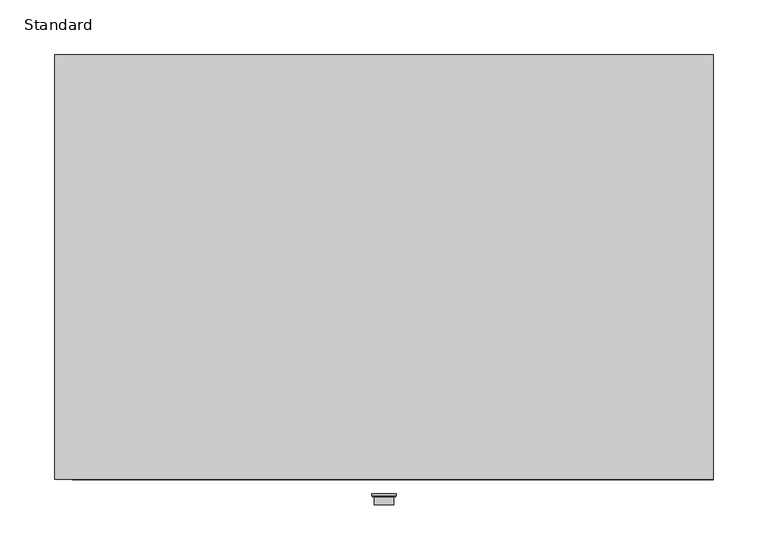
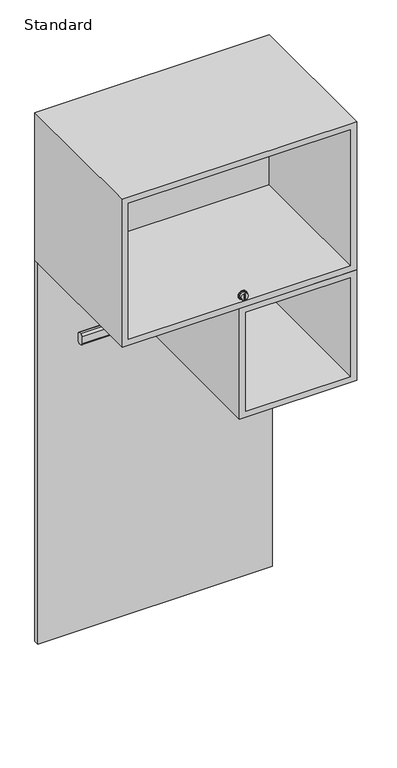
"""IFC4 building model written with IfcOpenShell, lengths in millimetres: furniture geometry, X_Locker-Duracube-Player Bay : Standard."""

from ifc_helpers import new_model, si_unit, point, frame, frame_2d, origin, origin_with_axes, place, context, project, spatial, polyline, circle_curve, ellipse_curve, trimmed, segment, composite_curve, outline, extrude, faceted_brep, source, transform, mapped, element, save
from ifc_brep_helpers import plane_surface, revolved_surface, advanced_brep


def standard_c1bdd0ff(model_context):
    return source(origin(), model_context, "Body", "SolidModel", [
        extrude(outline(composite_curve([segment(trimmed(circle_curve(frame_2d((1075.0, 44.7003264)), 11.0), [point((1075.0, 33.7003264))], [point((1075.0, 55.7003264))], False, "CARTESIAN"), True, "CONTINUOUS"), segment(trimmed(circle_curve(frame_2d((1075.0, 44.7003264)), 11.0), [point((1075.0, 55.7003264))], [point((1075.0, 33.7003264))], False, "CARTESIAN"), True, "CONTINUOUS")], self_intersect=False)), frame((0.0, -402.0, 0.0), z_axis=(0.0, 1.0, 0.0), x_axis=(0.0, 0.0, 1.0)), (0.0, 0.0, 1.0), 2.0),
        advanced_brep(
        [(44.7003264, -403.0, 1066.0), (44.7003264, -403.0, 1084.0), (44.7003264, -402.0, 1086.0), (44.7003264, -402.0, 1064.0), (44.7003264, -402.0, 1066.0), (44.7003264, -402.0, 1084.0)],
        [
            (0, 1, circle_curve(frame((44.7003264, -403.0, 1075.0), z_axis=(0.0, 1.0, 0.0), x_axis=(0.0, 0.0, 1.0)), 9.0)),
            (1, 2, ellipse_curve(frame((44.7003264, -402.0, 1084.0), z_axis=(-1.0, 0.0, 0.0), x_axis=(0.0, 0.0, 1.0)), 2.0, 1.0)),
            (2, 3, circle_curve(frame((44.7003264, -402.0, 1075.0), z_axis=(0.0, -1.0, 0.0), x_axis=(0.0, 0.0, 1.0)), 11.0)),
            (3, 0, ellipse_curve(frame((44.7003264, -402.0, 1066.0), z_axis=(-1.0, 0.0, 0.0), x_axis=(0.0, 0.0, -1.0)), 2.0, 1.0)),
            (1, 0, circle_curve(frame((44.7003264, -403.0, 1075.0), z_axis=(0.0, 1.0, 0.0), x_axis=(0.0, 0.0, 1.0)), 9.0)),
            (3, 2, circle_curve(frame((44.7003264, -402.0, 1075.0), z_axis=(0.0, -1.0, 0.0), x_axis=(0.0, 0.0, 1.0)), 11.0)),
            (4, 5, circle_curve(frame((44.7003264, -402.0, 1075.0), z_axis=(0.0, 1.0, 0.0), x_axis=(0.0, 0.0, 1.0)), 9.0)),
            (5, 1),
            (0, 4),
            (5, 4, circle_curve(frame((44.7003264, -402.0, 1075.0), z_axis=(0.0, 1.0, 0.0), x_axis=(0.0, 0.0, 1.0)), 9.0)),
            (2, 5),
            (4, 3),
        ],
        [
            revolved_surface(trimmed(ellipse_curve(frame((44.7003264, -402.0, 1084.0), z_axis=(1.0, 0.0, 0.0), x_axis=(0.0, 0.0, 1.0)), 2.0, 1.0), [point((44.7003264, -402.0, 1086.0))], [point((44.7003264, -403.0, 1084.0))], True, "CARTESIAN"), (44.7003264, -402.0, 1075.0), (0.0, -1.0, 0.0)),
            revolved_surface(polyline([(44.7003264, -403.0, 1084.0), (44.7003264, -402.0, 1084.0)]), (44.7003264, -402.0, 1075.0), (0.0, -1.0, 0.0)),
            plane_surface(frame((44.7003264, -402.0, 1075.0), z_axis=(0.0, 1.0, 0.0), x_axis=(0.0, 0.0, 1.0))),
        ],
        [
            (0, [[1, 2, 3, 4]]),
            (0, [[5, -4, 6, -2]]),
            (1, [[7, 8, -1, 9]]),
            (1, [[10, -9, -5, -8]]),
            (2, [[-3, 11, -7, 12]]),
            (2, [[-6, -12, -10, -11]]),
        ],
    ),
        extrude(outline(polyline([(45.7003264, -409.0), (43.7003264, -409.0), (43.7003264, -407.0), (45.7003264, -407.0), (45.7003264, -409.0)])), frame((0.0, 0.0, 1068.0), z_axis=(0.0, 0.0, 1.0), x_axis=(1.0, 0.0, 0.0)), (0.0, 0.0, 1.0), 14.0),
        extrude(outline(composite_curve([segment(trimmed(circle_curve(frame_2d((1075.0, 44.7003264)), 9.0), [point((1075.0, 35.7003264))], [point((1075.0, 53.7003264))], False, "CARTESIAN"), True, "CONTINUOUS"), segment(trimmed(circle_curve(frame_2d((1075.0, 44.7003264)), 9.0), [point((1075.0, 53.7003264))], [point((1075.0, 35.7003264))], False, "CARTESIAN"), True, "CONTINUOUS")], self_intersect=False), holes=[polyline([(1082.0, 45.7003264), (1068.0, 45.7003264), (1068.0, 43.7003264), (1082.0, 43.7003264), (1082.0, 45.7003264)])]), frame((0.0, -410.0, 0.0), z_axis=(0.0, 1.0, 0.0), x_axis=(0.0, 0.0, 1.0)), (0.0, 0.0, 1.0), 8.0),
        faceted_brep([(344.7003264, -387.0, 1430.0), (-255.2996736, -387.0, 1430.0), (-255.2996736, -387.0, 1030.0), (344.7003264, -387.0, 1030.0), (328.7003264, -387.0, 1414.0), (328.7003264, -387.0, 1046.0), (-239.2996736, -387.0, 1046.0), (-239.2996736, -387.0, 1414.0), (344.7003264, 0.0, 1430.0), (344.7003264, 0.0, 1030.0), (-255.2996736, 0.0, 1030.0), (-255.2996736, 0.0, 1430.0), (328.7003264, 0.0, 1414.0), (-239.2996736, 0.0, 1414.0), (-239.2996736, 0.0, 1046.0), (328.7003264, 0.0, 1046.0), (328.7003264, -26.0, 1414.0), (328.7003264, -26.0, 1046.0), (328.7003264, -10.0, 1046.0), (328.7003264, -10.0, 1414.0), (-239.2996736, -26.0, 1046.0), (-239.2996736, -10.0, 1046.0), (-239.2996736, -26.0, 1414.0), (-239.2996736, -10.0, 1414.0)], [[[0, 1, 2, 3], [4, 5, 6, 7]], [[8, 9, 10, 11], [12, 13, 14, 15]], [[1, 0, 8, 11]], [[2, 1, 11, 10]], [[3, 2, 10, 9]], [[0, 3, 9, 8]], [[5, 4, 16, 17]], [[12, 15, 18, 19]], [[6, 5, 17, 20]], [[15, 14, 21, 18]], [[7, 6, 20, 22]], [[14, 13, 23, 21]], [[4, 7, 22, 16]], [[13, 12, 19, 23]], [[17, 16, 22, 20]], [[19, 18, 21, 23]]]),
        extrude(outline(polyline([(730.0, 344.7003264), (1030.0, 344.7003264), (1030.0, 44.7003264), (730.0, 44.7003264), (730.0, 344.7003264)]), holes=[polyline([(746.0, 328.7003264), (746.0, 60.7003264), (1014.0, 60.7003264), (1014.0, 328.7003264), (746.0, 328.7003264)])]), frame((0.0, -387.0, 0.0), z_axis=(0.0, 1.0, 0.0), x_axis=(0.0, 0.0, 1.0)), (0.0, 0.0, 1.0), 374.0),
        extrude(outline(polyline([(344.7003264, 0.0), (344.7003264, -13.0), (-255.2996736, -13.0), (-255.2996736, 0.0), (344.7003264, 0.0)])), origin_with_axes(), (0.0, 0.0, 1.0), 1030.0),
        extrude(outline(composite_curve([segment(polyline([(-202.5, 955.0), (-197.5, 955.0)]), True, "CONTINUOUS"), segment(trimmed(circle_curve(frame_2d((-197.5, 950.0)), 5.0), [point((-197.5, 955.0))], [point((-192.5, 950.0))], False, "CARTESIAN"), True, "CONTINUOUS"), segment(polyline([(-192.5, 950.0), (-192.5, 930.0)]), True, "CONTINUOUS"), segment(trimmed(circle_curve(frame_2d((-197.5, 930.0)), 5.0), [point((-192.5, 930.0))], [point((-197.5, 925.0))], False, "CARTESIAN"), True, "CONTINUOUS"), segment(polyline([(-197.5, 925.0), (-202.5, 925.0)]), True, "CONTINUOUS"), segment(trimmed(circle_curve(frame_2d((-202.5, 930.0)), 5.0), [point((-202.5, 925.0))], [point((-207.5, 930.0))], False, "CARTESIAN"), True, "CONTINUOUS"), segment(polyline([(-207.5, 930.0), (-207.5, 950.0)]), True, "CONTINUOUS"), segment(trimmed(circle_curve(frame_2d((-202.5, 950.0)), 5.0), [point((-207.5, 950.0))], [point((-202.5, 955.0))], False, "CARTESIAN"), True, "CONTINUOUS")], self_intersect=False)), frame((-255.2996736, 0.0, 0.0), z_axis=(1.0, 0.0, 0.0), x_axis=(0.0, 1.0, 0.0)), (0.0, 0.0, 1.0), 300.0),
    ])


if __name__ == "__main__":
    model = new_model("IFC4")
    model_context = context("Model", 3, world=origin())
    ifc_project = project(units=[si_unit("LENGTHUNIT", "METRE", prefix="MILLI")], contexts=[model_context])
    site = spatial("IfcSite", under=ifc_project)
    building = spatial("IfcBuilding", under=site)
    placement = place(None, origin())
    standard_shape = standard_c1bdd0ff(model_context)
    element("IfcFurniture", 1, ObjectType="X_Locker-Duracube-Player Bay : Standard", at=placement, inside=building, context=model_context, shape_type="MappedRepresentation", body=[
        mapped(standard_shape, transform((0.0, 0.0, 0.0), x_axis=(1.0, 0.0, 0.0), y_axis=(0.0, 1.0, 0.0), z_axis=(0.0, 0.0, 1.0))),
    ])
    save(model, "model.ifc")
